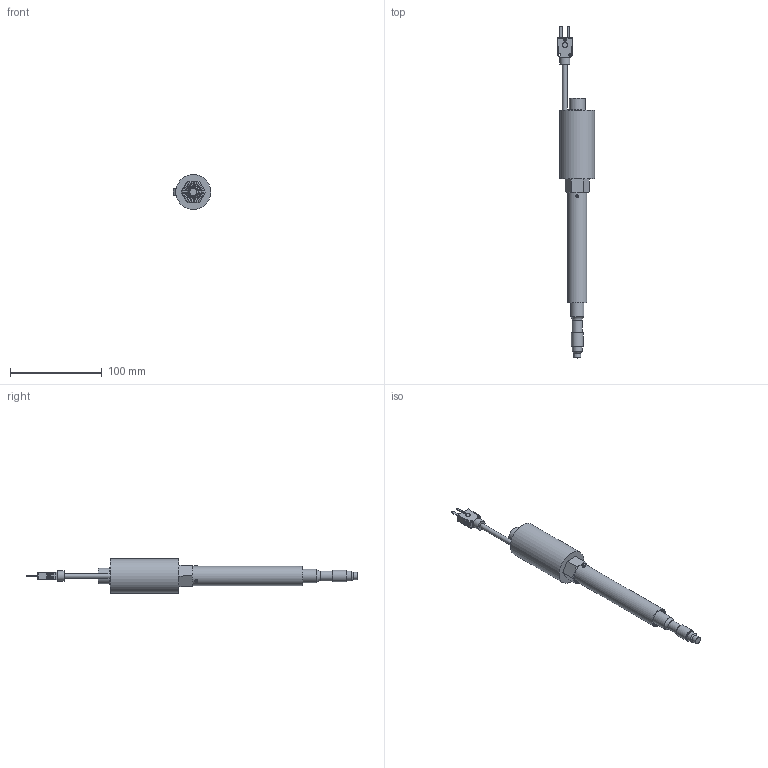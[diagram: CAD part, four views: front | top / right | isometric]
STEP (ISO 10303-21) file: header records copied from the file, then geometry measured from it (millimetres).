
FILE_DESCRIPTION (( 'STEP AP203' ), '1' );
FILE_NAME ('YICZ200PUC-1(0).STEP', '2023-08-08T10:19:21', ( '' ), ( '' ), 'SwSTEP 2.0', 'SolidWorks 2021', '' );
FILE_SCHEMA (( 'CONFIG_CONTROL_DESIGN' ));
Length unit declared in the file: millimetre
Products named in the file (1): YICZ200PUC-1(0)
Bounding box: 40.75 x 361.5 x 38 mm (x, y, z)
Volume: 140937.6 mm3; surface area: 38540.1 mm2
Topology: 3 solids, 4 shells, 186 faces, 416 edges, 253 vertices
Faces by surface type: plane 81, cylinder 73, cone 19, sphere 12, torus 1
Full cylindrical faces by diameter (mm): 2.6 x3, 3 x6, 4 x1, 5.4 x1, 5.5 x1, 7.8 x1, 10.5 x1, 10.7 x1, 11 x1, 12.7 x1, 14.6 x3, 16.9 x2, 17 x2, 19 x1, 21 x1, 38 x1
Entity records: 5309 total; most frequent: CARTESIAN_POINT 1331, DIRECTION 814, ORIENTED_EDGE 722, EDGE_CURVE 361, AXIS2_PLACEMENT_3D 316, EDGE_LOOP 258, VERTEX_POINT 247, FACE_OUTER_BOUND 214
